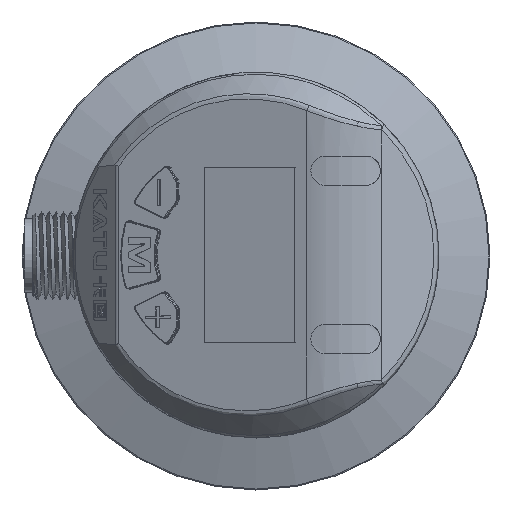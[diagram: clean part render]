
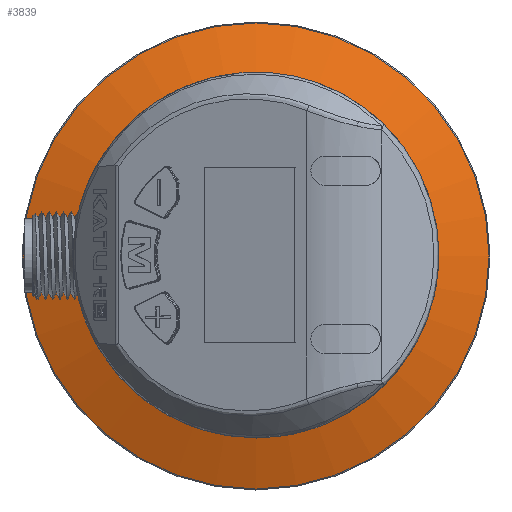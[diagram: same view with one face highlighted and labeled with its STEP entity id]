
A CAD part, top view. The second image highlights one B-rep face of the part: STEP entity #3839.
In plain terms, the highlighted conical face has half-angle 70 degrees and reference radius 23.758 mm.
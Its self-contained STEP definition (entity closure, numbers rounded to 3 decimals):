
#2541=CONICAL_SURFACE('',#10971,23.758,70.);
#3839=ADVANCED_FACE('',(#4399,#4400),#2541,.T.);
#4399=FACE_BOUND('',#5106,.T.);
#4400=FACE_BOUND('',#5107,.T.);
#5106=EDGE_LOOP('',(#7634));
#5107=EDGE_LOOP('',(#7635));
#7634=ORIENTED_EDGE('',*,*,#9772,.T.);
#7635=ORIENTED_EDGE('',*,*,#9745,.F.);
#8481=VERTEX_POINT('',#19970);
#8508=VERTEX_POINT('',#20110);
#9745=EDGE_CURVE('',#8481,#8481,#10053,.T.);
#9772=EDGE_CURVE('',#8508,#8508,#10078,.T.);
#10053=CIRCLE('',#10919,23.758);
#10078=CIRCLE('',#10970,31.868);
#10919=AXIS2_PLACEMENT_3D('',#19969,#13383,#13384);
#10970=AXIS2_PLACEMENT_3D('',#20109,#13485,#13486);
#10971=AXIS2_PLACEMENT_3D('',#20111,#13487,#13488);
#13383=DIRECTION('',(0.,0.,1.));
#13384=DIRECTION('',(-1.,0.,0.));
#13485=DIRECTION('',(0.,0.,1.));
#13486=DIRECTION('',(1.,0.,0.));
#13487=DIRECTION('',(0.,0.,-1.));
#13488=DIRECTION('',(-1.,0.,0.));
#19969=CARTESIAN_POINT('',(-145.,0.,67.));
#19970=CARTESIAN_POINT('',(-168.758,0.,67.));
#20109=CARTESIAN_POINT('',(-145.,0.,64.048));
#20110=CARTESIAN_POINT('',(-113.132,0.,64.048));
#20111=CARTESIAN_POINT('',(-145.,0.,67.));
